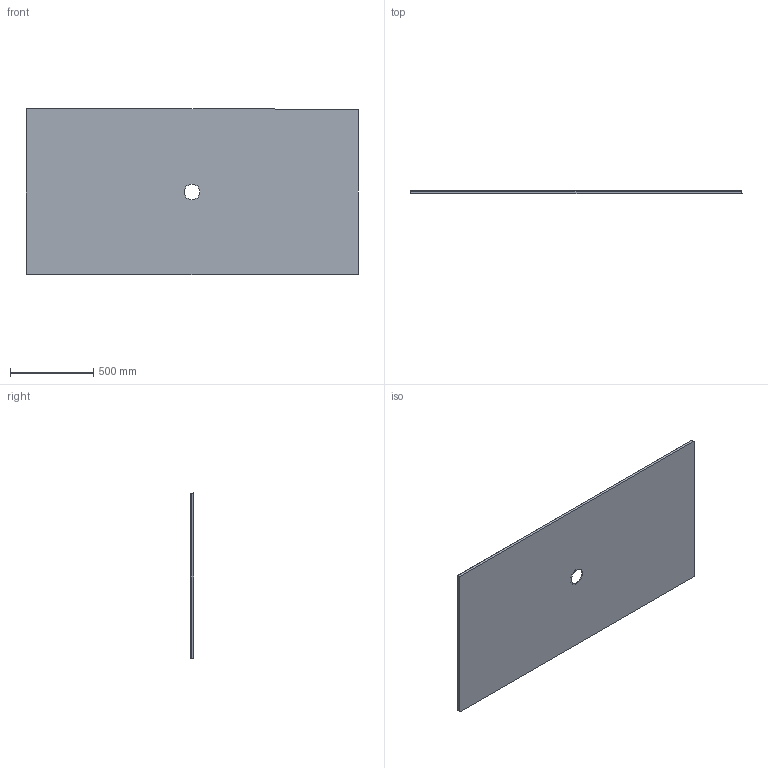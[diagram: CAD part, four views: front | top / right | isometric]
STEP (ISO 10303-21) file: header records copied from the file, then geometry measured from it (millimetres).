
FILE_DESCRIPTION (( 'STEP AP203' ), '1' );
FILE_NAME ('SDPD20010020.STEP', '2023-03-31T10:32:40', ( '' ), ( '' ), 'SwSTEP 2.0', 'SolidWorks 2023', '' );
FILE_SCHEMA (( 'CONFIG_CONTROL_DESIGN' ));
Length unit declared in the file: millimetre
Products named in the file (1): SDPD20010020
Bounding box: 2000 x 20 x 1000 mm (x, y, z)
Volume: 34426737 mm3; surface area: 4089632.7 mm2
Topology: 1 solids, 1 shells, 26 faces, 62 edges, 40 vertices
Faces by surface type: cylinder 9, plane 8, sphere 4, bspline 2, torus 2, cone 1
Full cylindrical faces by diameter (mm): 95 x1
Entity records: 2504 total; most frequent: CARTESIAN_POINT 1888, DIRECTION 108, ORIENTED_EDGE 104, EDGE_CURVE 52, AXIS2_PLACEMENT_3D 44, VERTEX_POINT 36, EDGE_LOOP 36, FACE_OUTER_BOUND 31
